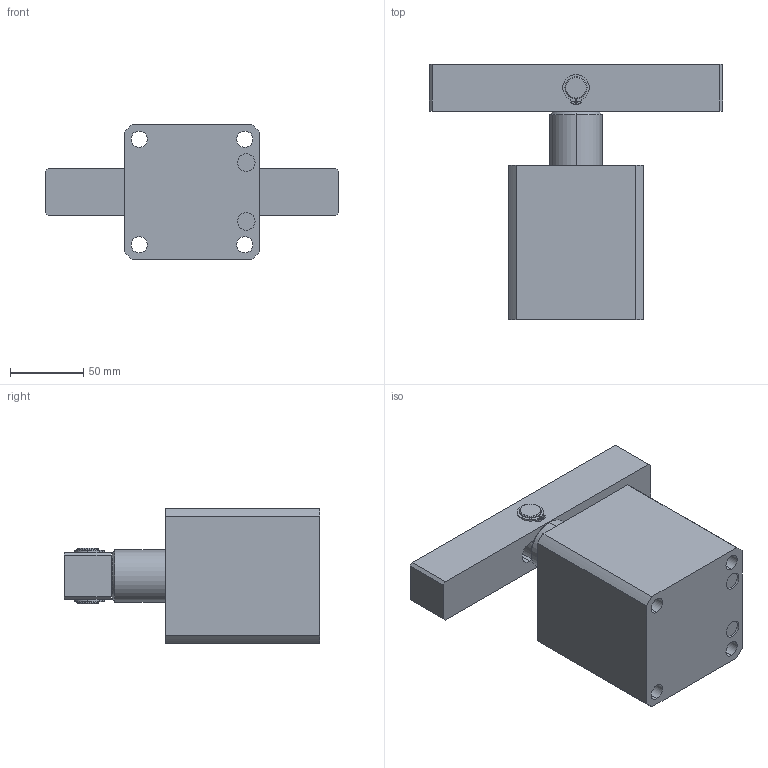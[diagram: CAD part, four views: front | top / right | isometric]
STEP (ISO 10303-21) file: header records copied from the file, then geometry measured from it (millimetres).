
FILE_DESCRIPTION (( 'STEP AP214' ), '1' );
FILE_NAME ('CHS-M63D.STEP', '2019-12-23T06:23:52', ( '' ), ( '' ), 'SwSTEP 2.0', 'SolidWorks 2016', '' );
FILE_SCHEMA (( 'AUTOMOTIVE_DESIGN' ));
Length unit declared in the file: millimetre
Products named in the file (6): 縐銅; 傻种; CHS-63D-01_4; CHS-63D活塞杆; CHS-M63(BT); CHS-M63D
Assembly tree (6 placements, depth 2):
  CHS-M63D
    CHS-M63(BT)
    CHS-63D活塞杆
    CHS-63D-01_4
    傻种
    縐銅  x2
Bounding box: 200 x 174 x 92 mm (x, y, z)
Volume: 1119851.6 mm3; surface area: 129120.8 mm2
Topology: 6 solids, 6 shells, 154 faces, 370 edges, 241 vertices
Faces by surface type: cylinder 84, plane 52, cone 18
Entity records: 4826 total; most frequent: DIRECTION 746, CARTESIAN_POINT 662, ORIENTED_EDGE 616, EDGE_CURVE 308, AXIS2_PLACEMENT_3D 301, VERTEX_POINT 201, EDGE_LOOP 167, CIRCLE 160
